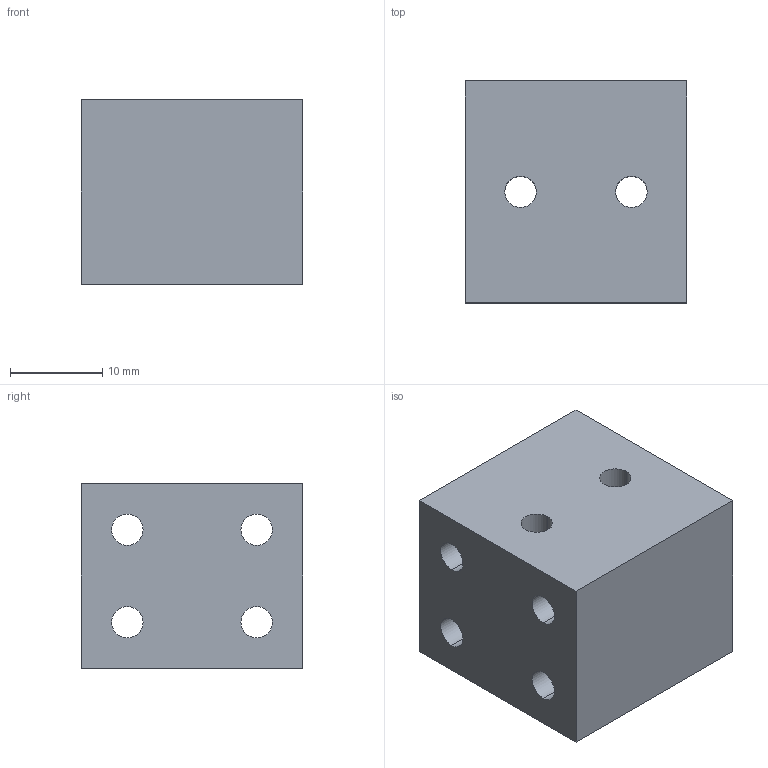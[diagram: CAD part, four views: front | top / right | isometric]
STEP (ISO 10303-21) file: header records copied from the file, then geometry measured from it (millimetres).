
FILE_DESCRIPTION (( 'STEP AP203' ), '1' );
FILE_NAME ('V2_05_wrist_adapter.STEP', '2026-09-18T10:17:23', ( '15300530775@163.com' ), ( '' ), 'SwSTEP 2.0', 'SolidWorks 2026', '' );
FILE_SCHEMA (( 'CONFIG_CONTROL_DESIGN' ));
Length unit declared in the file: millimetre
Products named in the file (1): V2_05_wrist_adapter
Bounding box: 24 x 24 x 20 mm (x, y, z)
Volume: 10285.2 mm3; surface area: 4415.7 mm2
Topology: 1 solids, 1 shells, 18 faces, 48 edges, 32 vertices
Faces by surface type: cylinder 12, plane 6
Entity records: 677 total; most frequent: DIRECTION 110, CARTESIAN_POINT 99, ORIENTED_EDGE 96, EDGE_CURVE 48, AXIS2_PLACEMENT_3D 43, VERTEX_POINT 32, EDGE_LOOP 30, CIRCLE 24
